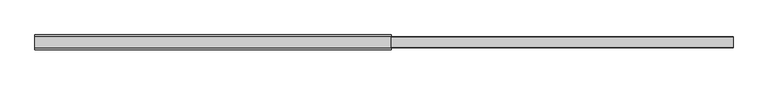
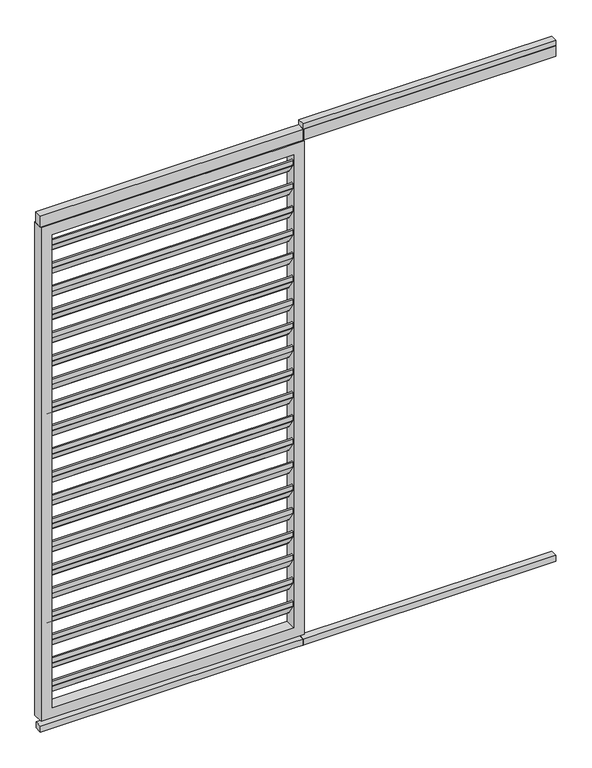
"""IFC4 building model written with IfcOpenShell, lengths in millimetres: proxy geometry, Renson_Algarve_Loggia_Paro_Aluminium : Renson_Algarve_Loggia_Paro_Aluminium."""

from ifc_helpers import new_model, si_unit, point, frame, frame_2d, origin, origin_with_axes, place, context, project, spatial, polyline, circle_curve, trimmed, segment, composite_curve, outline, extrude, source, transform, mapped, element, save


def generic_models_d46f8615(model_context):
    return source(origin(), model_context, "Body", "SweptSolid", [
        extrude(outline(composite_curve([segment(polyline([(-10.1515804, 1894.292689), (14.3324079, 1856.5906532), (14.3324079, 1837.3412281)]), True, "CONTINUOUS"), segment(trimmed(circle_curve(frame_2d((11.3324079, 1837.3412281)), 3.0), [point((14.3324079, 1837.3412281))], [point((8.8163962, 1835.707311))], False, "CARTESIAN"), True, "CONTINUOUS"), segment(polyline([(8.8163962, 1835.707311), (-15.1836038, 1872.6640702)]), True, "CONTINUOUS"), segment(trimmed(circle_curve(frame_2d((-12.6675921, 1874.2979873)), 3.0), [point((-15.1836038, 1872.6640702))], [point((-15.6675921, 1874.2979873))], False, "CARTESIAN"), True, "CONTINUOUS"), segment(polyline([(-15.6675921, 1874.2979873), (-15.6675921, 1892.6587719)]), True, "CONTINUOUS"), segment(trimmed(circle_curve(frame_2d((-12.6675921, 1892.6587719)), 3.0), [point((-15.6675921, 1892.6587719))], [point((-10.1515804, 1894.292689))], False, "CARTESIAN"), True, "CONTINUOUS")], self_intersect=False)), frame((-442.5, 0.0, 0.0), z_axis=(1.0, 0.0, 0.0), x_axis=(0.0, 1.0, 0.0)), (0.0, 0.0, 1.0), 885.0),
        extrude(outline(composite_curve([segment(polyline([(-10.1515804, 1804.292689), (14.3324079, 1766.5906532), (14.3324079, 1747.3412281)]), True, "CONTINUOUS"), segment(trimmed(circle_curve(frame_2d((11.3324079, 1747.3412281)), 3.0), [point((14.3324079, 1747.3412281))], [point((8.8163962, 1745.707311))], False, "CARTESIAN"), True, "CONTINUOUS"), segment(polyline([(8.8163962, 1745.707311), (-15.1836038, 1782.6640702)]), True, "CONTINUOUS"), segment(trimmed(circle_curve(frame_2d((-12.6675921, 1784.2979873)), 3.0), [point((-15.1836038, 1782.6640702))], [point((-15.6675921, 1784.2979873))], False, "CARTESIAN"), True, "CONTINUOUS"), segment(polyline([(-15.6675921, 1784.2979873), (-15.6675921, 1802.6587719)]), True, "CONTINUOUS"), segment(trimmed(circle_curve(frame_2d((-12.6675921, 1802.6587719)), 3.0), [point((-15.6675921, 1802.6587719))], [point((-10.1515804, 1804.292689))], False, "CARTESIAN"), True, "CONTINUOUS")], self_intersect=False)), frame((-442.5, 0.0, 0.0), z_axis=(1.0, 0.0, 0.0), x_axis=(0.0, 1.0, 0.0)), (0.0, 0.0, 1.0), 885.0),
        extrude(outline(composite_curve([segment(polyline([(-10.1515804, 1714.292689), (14.3324079, 1676.5906532), (14.3324079, 1657.3412281)]), True, "CONTINUOUS"), segment(trimmed(circle_curve(frame_2d((11.3324079, 1657.3412281)), 3.0), [point((14.3324079, 1657.3412281))], [point((8.8163962, 1655.707311))], False, "CARTESIAN"), True, "CONTINUOUS"), segment(polyline([(8.8163962, 1655.707311), (-15.1836038, 1692.6640702)]), True, "CONTINUOUS"), segment(trimmed(circle_curve(frame_2d((-12.6675921, 1694.2979873)), 3.0), [point((-15.1836038, 1692.6640702))], [point((-15.6675921, 1694.2979873))], False, "CARTESIAN"), True, "CONTINUOUS"), segment(polyline([(-15.6675921, 1694.2979873), (-15.6675921, 1712.6587719)]), True, "CONTINUOUS"), segment(trimmed(circle_curve(frame_2d((-12.6675921, 1712.6587719)), 3.0), [point((-15.6675921, 1712.6587719))], [point((-10.1515804, 1714.292689))], False, "CARTESIAN"), True, "CONTINUOUS")], self_intersect=False)), frame((-442.5, 0.0, 0.0), z_axis=(1.0, 0.0, 0.0), x_axis=(0.0, 1.0, 0.0)), (0.0, 0.0, 1.0), 885.0),
        extrude(outline(composite_curve([segment(polyline([(-10.1515804, 1624.292689), (14.3324079, 1586.5906532), (14.3324079, 1567.3412281)]), True, "CONTINUOUS"), segment(trimmed(circle_curve(frame_2d((11.3324079, 1567.3412281)), 3.0), [point((14.3324079, 1567.3412281))], [point((8.8163962, 1565.707311))], False, "CARTESIAN"), True, "CONTINUOUS"), segment(polyline([(8.8163962, 1565.707311), (-15.1836038, 1602.6640702)]), True, "CONTINUOUS"), segment(trimmed(circle_curve(frame_2d((-12.6675921, 1604.2979873)), 3.0), [point((-15.1836038, 1602.6640702))], [point((-15.6675921, 1604.2979873))], False, "CARTESIAN"), True, "CONTINUOUS"), segment(polyline([(-15.6675921, 1604.2979873), (-15.6675921, 1622.6587719)]), True, "CONTINUOUS"), segment(trimmed(circle_curve(frame_2d((-12.6675921, 1622.6587719)), 3.0), [point((-15.6675921, 1622.6587719))], [point((-10.1515804, 1624.292689))], False, "CARTESIAN"), True, "CONTINUOUS")], self_intersect=False)), frame((-442.5, 0.0, 0.0), z_axis=(1.0, 0.0, 0.0), x_axis=(0.0, 1.0, 0.0)), (0.0, 0.0, 1.0), 885.0),
        extrude(outline(composite_curve([segment(polyline([(-10.1515804, 1534.292689), (14.3324079, 1496.5906532), (14.3324079, 1477.3412281)]), True, "CONTINUOUS"), segment(trimmed(circle_curve(frame_2d((11.3324079, 1477.3412281)), 3.0), [point((14.3324079, 1477.3412281))], [point((8.8163962, 1475.707311))], False, "CARTESIAN"), True, "CONTINUOUS"), segment(polyline([(8.8163962, 1475.707311), (-15.1836038, 1512.6640702)]), True, "CONTINUOUS"), segment(trimmed(circle_curve(frame_2d((-12.6675921, 1514.2979873)), 3.0), [point((-15.1836038, 1512.6640702))], [point((-15.6675921, 1514.2979873))], False, "CARTESIAN"), True, "CONTINUOUS"), segment(polyline([(-15.6675921, 1514.2979873), (-15.6675921, 1532.6587719)]), True, "CONTINUOUS"), segment(trimmed(circle_curve(frame_2d((-12.6675921, 1532.6587719)), 3.0), [point((-15.6675921, 1532.6587719))], [point((-10.1515804, 1534.292689))], False, "CARTESIAN"), True, "CONTINUOUS")], self_intersect=False)), frame((-442.5, 0.0, 0.0), z_axis=(1.0, 0.0, 0.0), x_axis=(0.0, 1.0, 0.0)), (0.0, 0.0, 1.0), 885.0),
        extrude(outline(composite_curve([segment(polyline([(-10.1515804, 1444.292689), (14.3324079, 1406.5906532), (14.3324079, 1387.3412281)]), True, "CONTINUOUS"), segment(trimmed(circle_curve(frame_2d((11.3324079, 1387.3412281)), 3.0), [point((14.3324079, 1387.3412281))], [point((8.8163962, 1385.707311))], False, "CARTESIAN"), True, "CONTINUOUS"), segment(polyline([(8.8163962, 1385.707311), (-15.1836038, 1422.6640702)]), True, "CONTINUOUS"), segment(trimmed(circle_curve(frame_2d((-12.6675921, 1424.2979873)), 3.0), [point((-15.1836038, 1422.6640702))], [point((-15.6675921, 1424.2979873))], False, "CARTESIAN"), True, "CONTINUOUS"), segment(polyline([(-15.6675921, 1424.2979873), (-15.6675921, 1442.6587719)]), True, "CONTINUOUS"), segment(trimmed(circle_curve(frame_2d((-12.6675921, 1442.6587719)), 3.0), [point((-15.6675921, 1442.6587719))], [point((-10.1515804, 1444.292689))], False, "CARTESIAN"), True, "CONTINUOUS")], self_intersect=False)), frame((-442.5, 0.0, 0.0), z_axis=(1.0, 0.0, 0.0), x_axis=(0.0, 1.0, 0.0)), (0.0, 0.0, 1.0), 885.0),
        extrude(outline(composite_curve([segment(polyline([(-10.1515804, 1354.292689), (14.3324079, 1316.5906532), (14.3324079, 1297.3412281)]), True, "CONTINUOUS"), segment(trimmed(circle_curve(frame_2d((11.3324079, 1297.3412281)), 3.0), [point((14.3324079, 1297.3412281))], [point((8.8163962, 1295.707311))], False, "CARTESIAN"), True, "CONTINUOUS"), segment(polyline([(8.8163962, 1295.707311), (-15.1836038, 1332.6640702)]), True, "CONTINUOUS"), segment(trimmed(circle_curve(frame_2d((-12.6675921, 1334.2979873)), 3.0), [point((-15.1836038, 1332.6640702))], [point((-15.6675921, 1334.2979873))], False, "CARTESIAN"), True, "CONTINUOUS"), segment(polyline([(-15.6675921, 1334.2979873), (-15.6675921, 1352.6587719)]), True, "CONTINUOUS"), segment(trimmed(circle_curve(frame_2d((-12.6675921, 1352.6587719)), 3.0), [point((-15.6675921, 1352.6587719))], [point((-10.1515804, 1354.292689))], False, "CARTESIAN"), True, "CONTINUOUS")], self_intersect=False)), frame((-442.5, 0.0, 0.0), z_axis=(1.0, 0.0, 0.0), x_axis=(0.0, 1.0, 0.0)), (0.0, 0.0, 1.0), 885.0),
        extrude(outline(composite_curve([segment(polyline([(-10.1515804, 1264.292689), (14.3324079, 1226.5906532), (14.3324079, 1207.3412281)]), True, "CONTINUOUS"), segment(trimmed(circle_curve(frame_2d((11.3324079, 1207.3412281)), 3.0), [point((14.3324079, 1207.3412281))], [point((8.8163962, 1205.707311))], False, "CARTESIAN"), True, "CONTINUOUS"), segment(polyline([(8.8163962, 1205.707311), (-15.1836038, 1242.6640702)]), True, "CONTINUOUS"), segment(trimmed(circle_curve(frame_2d((-12.6675921, 1244.2979873)), 3.0), [point((-15.1836038, 1242.6640702))], [point((-15.6675921, 1244.2979873))], False, "CARTESIAN"), True, "CONTINUOUS"), segment(polyline([(-15.6675921, 1244.2979873), (-15.6675921, 1262.6587719)]), True, "CONTINUOUS"), segment(trimmed(circle_curve(frame_2d((-12.6675921, 1262.6587719)), 3.0), [point((-15.6675921, 1262.6587719))], [point((-10.1515804, 1264.292689))], False, "CARTESIAN"), True, "CONTINUOUS")], self_intersect=False)), frame((-442.5, 0.0, 0.0), z_axis=(1.0, 0.0, 0.0), x_axis=(0.0, 1.0, 0.0)), (0.0, 0.0, 1.0), 885.0),
        extrude(outline(composite_curve([segment(polyline([(-10.1515804, 1174.292689), (14.3324079, 1136.5906532), (14.3324079, 1117.3412281)]), True, "CONTINUOUS"), segment(trimmed(circle_curve(frame_2d((11.3324079, 1117.3412281)), 3.0), [point((14.3324079, 1117.3412281))], [point((8.8163962, 1115.707311))], False, "CARTESIAN"), True, "CONTINUOUS"), segment(polyline([(8.8163962, 1115.707311), (-15.1836038, 1152.6640702)]), True, "CONTINUOUS"), segment(trimmed(circle_curve(frame_2d((-12.6675921, 1154.2979873)), 3.0), [point((-15.1836038, 1152.6640702))], [point((-15.6675921, 1154.2979873))], False, "CARTESIAN"), True, "CONTINUOUS"), segment(polyline([(-15.6675921, 1154.2979873), (-15.6675921, 1172.6587719)]), True, "CONTINUOUS"), segment(trimmed(circle_curve(frame_2d((-12.6675921, 1172.6587719)), 3.0), [point((-15.6675921, 1172.6587719))], [point((-10.1515804, 1174.292689))], False, "CARTESIAN"), True, "CONTINUOUS")], self_intersect=False)), frame((-442.5, 0.0, 0.0), z_axis=(1.0, 0.0, 0.0), x_axis=(0.0, 1.0, 0.0)), (0.0, 0.0, 1.0), 885.0),
        extrude(outline(composite_curve([segment(polyline([(-10.1515804, 1084.292689), (14.3324079, 1046.5906532), (14.3324079, 1027.3412281)]), True, "CONTINUOUS"), segment(trimmed(circle_curve(frame_2d((11.3324079, 1027.3412281)), 3.0), [point((14.3324079, 1027.3412281))], [point((8.8163962, 1025.707311))], False, "CARTESIAN"), True, "CONTINUOUS"), segment(polyline([(8.8163962, 1025.707311), (-15.1836038, 1062.6640702)]), True, "CONTINUOUS"), segment(trimmed(circle_curve(frame_2d((-12.6675921, 1064.2979873)), 3.0), [point((-15.1836038, 1062.6640702))], [point((-15.6675921, 1064.2979873))], False, "CARTESIAN"), True, "CONTINUOUS"), segment(polyline([(-15.6675921, 1064.2979873), (-15.6675921, 1082.6587719)]), True, "CONTINUOUS"), segment(trimmed(circle_curve(frame_2d((-12.6675921, 1082.6587719)), 3.0), [point((-15.6675921, 1082.6587719))], [point((-10.1515804, 1084.292689))], False, "CARTESIAN"), True, "CONTINUOUS")], self_intersect=False)), frame((-442.5, 0.0, 0.0), z_axis=(1.0, 0.0, 0.0), x_axis=(0.0, 1.0, 0.0)), (0.0, 0.0, 1.0), 885.0),
        extrude(outline(composite_curve([segment(polyline([(-10.1515804, 994.292689), (14.3324079, 956.5906532), (14.3324079, 937.3412281)]), True, "CONTINUOUS"), segment(trimmed(circle_curve(frame_2d((11.3324079, 937.3412281)), 3.0), [point((14.3324079, 937.3412281))], [point((8.8163962, 935.707311))], False, "CARTESIAN"), True, "CONTINUOUS"), segment(polyline([(8.8163962, 935.707311), (-15.1836038, 972.6640702)]), True, "CONTINUOUS"), segment(trimmed(circle_curve(frame_2d((-12.6675921, 974.2979873)), 3.0), [point((-15.1836038, 972.6640702))], [point((-15.6675921, 974.2979873))], False, "CARTESIAN"), True, "CONTINUOUS"), segment(polyline([(-15.6675921, 974.2979873), (-15.6675921, 992.6587719)]), True, "CONTINUOUS"), segment(trimmed(circle_curve(frame_2d((-12.6675921, 992.6587719)), 3.0), [point((-15.6675921, 992.6587719))], [point((-10.1515804, 994.292689))], False, "CARTESIAN"), True, "CONTINUOUS")], self_intersect=False)), frame((-442.5, 0.0, 0.0), z_axis=(1.0, 0.0, 0.0), x_axis=(0.0, 1.0, 0.0)), (0.0, 0.0, 1.0), 885.0),
        extrude(outline(composite_curve([segment(polyline([(-10.1515804, 904.292689), (14.3324079, 866.5906532), (14.3324079, 847.3412281)]), True, "CONTINUOUS"), segment(trimmed(circle_curve(frame_2d((11.3324079, 847.3412281)), 3.0), [point((14.3324079, 847.3412281))], [point((8.8163962, 845.707311))], False, "CARTESIAN"), True, "CONTINUOUS"), segment(polyline([(8.8163962, 845.707311), (-15.1836038, 882.6640702)]), True, "CONTINUOUS"), segment(trimmed(circle_curve(frame_2d((-12.6675921, 884.2979873)), 3.0), [point((-15.1836038, 882.6640702))], [point((-15.6675921, 884.2979873))], False, "CARTESIAN"), True, "CONTINUOUS"), segment(polyline([(-15.6675921, 884.2979873), (-15.6675921, 902.6587719)]), True, "CONTINUOUS"), segment(trimmed(circle_curve(frame_2d((-12.6675921, 902.6587719)), 3.0), [point((-15.6675921, 902.6587719))], [point((-10.1515804, 904.292689))], False, "CARTESIAN"), True, "CONTINUOUS")], self_intersect=False)), frame((-442.5, 0.0, 0.0), z_axis=(1.0, 0.0, 0.0), x_axis=(0.0, 1.0, 0.0)), (0.0, 0.0, 1.0), 885.0),
        extrude(outline(composite_curve([segment(polyline([(-10.1515804, 814.292689), (14.3324079, 776.5906532), (14.3324079, 757.3412281)]), True, "CONTINUOUS"), segment(trimmed(circle_curve(frame_2d((11.3324079, 757.3412281)), 3.0), [point((14.3324079, 757.3412281))], [point((8.8163962, 755.707311))], False, "CARTESIAN"), True, "CONTINUOUS"), segment(polyline([(8.8163962, 755.707311), (-15.1836038, 792.6640702)]), True, "CONTINUOUS"), segment(trimmed(circle_curve(frame_2d((-12.6675921, 794.2979873)), 3.0), [point((-15.1836038, 792.6640702))], [point((-15.6675921, 794.2979873))], False, "CARTESIAN"), True, "CONTINUOUS"), segment(polyline([(-15.6675921, 794.2979873), (-15.6675921, 812.6587719)]), True, "CONTINUOUS"), segment(trimmed(circle_curve(frame_2d((-12.6675921, 812.6587719)), 3.0), [point((-15.6675921, 812.6587719))], [point((-10.1515804, 814.292689))], False, "CARTESIAN"), True, "CONTINUOUS")], self_intersect=False)), frame((-442.5, 0.0, 0.0), z_axis=(1.0, 0.0, 0.0), x_axis=(0.0, 1.0, 0.0)), (0.0, 0.0, 1.0), 885.0),
        extrude(outline(composite_curve([segment(polyline([(-10.1515804, 724.292689), (14.3324079, 686.5906532), (14.3324079, 667.3412281)]), True, "CONTINUOUS"), segment(trimmed(circle_curve(frame_2d((11.3324079, 667.3412281)), 3.0), [point((14.3324079, 667.3412281))], [point((8.8163962, 665.707311))], False, "CARTESIAN"), True, "CONTINUOUS"), segment(polyline([(8.8163962, 665.707311), (-15.1836038, 702.6640702)]), True, "CONTINUOUS"), segment(trimmed(circle_curve(frame_2d((-12.6675921, 704.2979873)), 3.0), [point((-15.1836038, 702.6640702))], [point((-15.6675921, 704.2979873))], False, "CARTESIAN"), True, "CONTINUOUS"), segment(polyline([(-15.6675921, 704.2979873), (-15.6675921, 722.6587719)]), True, "CONTINUOUS"), segment(trimmed(circle_curve(frame_2d((-12.6675921, 722.6587719)), 3.0), [point((-15.6675921, 722.6587719))], [point((-10.1515804, 724.292689))], False, "CARTESIAN"), True, "CONTINUOUS")], self_intersect=False)), frame((-442.5, 0.0, 0.0), z_axis=(1.0, 0.0, 0.0), x_axis=(0.0, 1.0, 0.0)), (0.0, 0.0, 1.0), 885.0),
        extrude(outline(composite_curve([segment(polyline([(-10.1515804, 634.292689), (14.3324079, 596.5906532), (14.3324079, 577.3412281)]), True, "CONTINUOUS"), segment(trimmed(circle_curve(frame_2d((11.3324079, 577.3412281)), 3.0), [point((14.3324079, 577.3412281))], [point((8.8163962, 575.707311))], False, "CARTESIAN"), True, "CONTINUOUS"), segment(polyline([(8.8163962, 575.707311), (-15.1836038, 612.6640702)]), True, "CONTINUOUS"), segment(trimmed(circle_curve(frame_2d((-12.6675921, 614.2979873)), 3.0), [point((-15.1836038, 612.6640702))], [point((-15.6675921, 614.2979873))], False, "CARTESIAN"), True, "CONTINUOUS"), segment(polyline([(-15.6675921, 614.2979873), (-15.6675921, 632.6587719)]), True, "CONTINUOUS"), segment(trimmed(circle_curve(frame_2d((-12.6675921, 632.6587719)), 3.0), [point((-15.6675921, 632.6587719))], [point((-10.1515804, 634.292689))], False, "CARTESIAN"), True, "CONTINUOUS")], self_intersect=False)), frame((-442.5, 0.0, 0.0), z_axis=(1.0, 0.0, 0.0), x_axis=(0.0, 1.0, 0.0)), (0.0, 0.0, 1.0), 885.0),
        extrude(outline(composite_curve([segment(polyline([(-10.1515804, 544.292689), (14.3324079, 506.5906532), (14.3324079, 487.3412281)]), True, "CONTINUOUS"), segment(trimmed(circle_curve(frame_2d((11.3324079, 487.3412281)), 3.0), [point((14.3324079, 487.3412281))], [point((8.8163962, 485.707311))], False, "CARTESIAN"), True, "CONTINUOUS"), segment(polyline([(8.8163962, 485.707311), (-15.1836038, 522.6640702)]), True, "CONTINUOUS"), segment(trimmed(circle_curve(frame_2d((-12.6675921, 524.2979873)), 3.0), [point((-15.1836038, 522.6640702))], [point((-15.6675921, 524.2979873))], False, "CARTESIAN"), True, "CONTINUOUS"), segment(polyline([(-15.6675921, 524.2979873), (-15.6675921, 542.6587719)]), True, "CONTINUOUS"), segment(trimmed(circle_curve(frame_2d((-12.6675921, 542.6587719)), 3.0), [point((-15.6675921, 542.6587719))], [point((-10.1515804, 544.292689))], False, "CARTESIAN"), True, "CONTINUOUS")], self_intersect=False)), frame((-442.5, 0.0, 0.0), z_axis=(1.0, 0.0, 0.0), x_axis=(0.0, 1.0, 0.0)), (0.0, 0.0, 1.0), 885.0),
        extrude(outline(composite_curve([segment(polyline([(-10.1515804, 454.292689), (14.3324079, 416.5906532), (14.3324079, 397.3412281)]), True, "CONTINUOUS"), segment(trimmed(circle_curve(frame_2d((11.3324079, 397.3412281)), 3.0), [point((14.3324079, 397.3412281))], [point((8.8163962, 395.707311))], False, "CARTESIAN"), True, "CONTINUOUS"), segment(polyline([(8.8163962, 395.707311), (-15.1836038, 432.6640702)]), True, "CONTINUOUS"), segment(trimmed(circle_curve(frame_2d((-12.6675921, 434.2979873)), 3.0), [point((-15.1836038, 432.6640702))], [point((-15.6675921, 434.2979873))], False, "CARTESIAN"), True, "CONTINUOUS"), segment(polyline([(-15.6675921, 434.2979873), (-15.6675921, 452.6587719)]), True, "CONTINUOUS"), segment(trimmed(circle_curve(frame_2d((-12.6675921, 452.6587719)), 3.0), [point((-15.6675921, 452.6587719))], [point((-10.1515804, 454.292689))], False, "CARTESIAN"), True, "CONTINUOUS")], self_intersect=False)), frame((-442.5, 0.0, 0.0), z_axis=(1.0, 0.0, 0.0), x_axis=(0.0, 1.0, 0.0)), (0.0, 0.0, 1.0), 885.0),
        extrude(outline(composite_curve([segment(polyline([(-10.1515804, 364.292689), (14.3324079, 326.5906532), (14.3324079, 307.3412281)]), True, "CONTINUOUS"), segment(trimmed(circle_curve(frame_2d((11.3324079, 307.3412281)), 3.0), [point((14.3324079, 307.3412281))], [point((8.8163962, 305.707311))], False, "CARTESIAN"), True, "CONTINUOUS"), segment(polyline([(8.8163962, 305.707311), (-15.1836038, 342.6640702)]), True, "CONTINUOUS"), segment(trimmed(circle_curve(frame_2d((-12.6675921, 344.2979873)), 3.0), [point((-15.1836038, 342.6640702))], [point((-15.6675921, 344.2979873))], False, "CARTESIAN"), True, "CONTINUOUS"), segment(polyline([(-15.6675921, 344.2979873), (-15.6675921, 362.6587719)]), True, "CONTINUOUS"), segment(trimmed(circle_curve(frame_2d((-12.6675921, 362.6587719)), 3.0), [point((-15.6675921, 362.6587719))], [point((-10.1515804, 364.292689))], False, "CARTESIAN"), True, "CONTINUOUS")], self_intersect=False)), frame((-442.5, 0.0, 0.0), z_axis=(1.0, 0.0, 0.0), x_axis=(0.0, 1.0, 0.0)), (0.0, 0.0, 1.0), 885.0),
        extrude(outline(composite_curve([segment(polyline([(-10.1515804, 274.292689), (14.3324079, 236.5906532), (14.3324079, 217.3412281)]), True, "CONTINUOUS"), segment(trimmed(circle_curve(frame_2d((11.3324079, 217.3412281)), 3.0), [point((14.3324079, 217.3412281))], [point((8.8163962, 215.707311))], False, "CARTESIAN"), True, "CONTINUOUS"), segment(polyline([(8.8163962, 215.707311), (-15.1836038, 252.6640702)]), True, "CONTINUOUS"), segment(trimmed(circle_curve(frame_2d((-12.6675921, 254.2979873)), 3.0), [point((-15.1836038, 252.6640702))], [point((-15.6675921, 254.2979873))], False, "CARTESIAN"), True, "CONTINUOUS"), segment(polyline([(-15.6675921, 254.2979873), (-15.6675921, 272.6587719)]), True, "CONTINUOUS"), segment(trimmed(circle_curve(frame_2d((-12.6675921, 272.6587719)), 3.0), [point((-15.6675921, 272.6587719))], [point((-10.1515804, 274.292689))], False, "CARTESIAN"), True, "CONTINUOUS")], self_intersect=False)), frame((-442.5, 0.0, 0.0), z_axis=(1.0, 0.0, 0.0), x_axis=(0.0, 1.0, 0.0)), (0.0, 0.0, 1.0), 885.0),
        extrude(outline(composite_curve([segment(polyline([(-10.1515804, 184.292689), (14.3324079, 146.5906532), (14.3324079, 127.3412281)]), True, "CONTINUOUS"), segment(trimmed(circle_curve(frame_2d((11.3324079, 127.3412281)), 3.0), [point((14.3324079, 127.3412281))], [point((8.8163962, 125.707311))], False, "CARTESIAN"), True, "CONTINUOUS"), segment(polyline([(8.8163962, 125.707311), (-15.1836038, 162.6640702)]), True, "CONTINUOUS"), segment(trimmed(circle_curve(frame_2d((-12.6675921, 164.2979873)), 3.0), [point((-15.1836038, 162.6640702))], [point((-15.6675921, 164.2979873))], False, "CARTESIAN"), True, "CONTINUOUS"), segment(polyline([(-15.6675921, 164.2979873), (-15.6675921, 182.6587719)]), True, "CONTINUOUS"), segment(trimmed(circle_curve(frame_2d((-12.6675921, 182.6587719)), 3.0), [point((-15.6675921, 182.6587719))], [point((-10.1515804, 184.292689))], False, "CARTESIAN"), True, "CONTINUOUS")], self_intersect=False)), frame((-442.5, 0.0, 0.0), z_axis=(1.0, 0.0, 0.0), x_axis=(0.0, 1.0, 0.0)), (0.0, 0.0, 1.0), 885.0),
        extrude(outline(polyline([(1407.5, 13.0), (1407.5, -14.0), (481.5, -14.0), (481.5, 13.0), (1407.5, 13.0)])), frame((0.0, 0.0, 2000.0), z_axis=(0.0, 0.0, 1.0), x_axis=(1.0, 0.0, 0.0)), (0.0, 0.0, 1.0), 20.0),
        extrude(outline(polyline([(482.5, -15.0), (481.5, -15.0), (481.5, 15.0), (482.5, 15.0), (482.5, -15.0)])), frame((0.0, 0.0, 1957.7138321), z_axis=(0.0, 0.0, 1.0), x_axis=(1.0, 0.0, 0.0)), (0.0, 0.0, 1.0), 42.2861679),
        extrude(outline(polyline([(1407.5, -15.0), (-482.5, -15.0), (-482.5, 15.0), (1407.5, 15.0), (1407.5, -15.0)])), frame((0.0, 0.0, 1957.7138321), z_axis=(0.0, 0.0, 1.0), x_axis=(1.0, 0.0, 0.0)), (0.0, 0.0, 1.0), 42.2861679),
        extrude(outline(polyline([(482.5, 13.0), (482.5, -14.0), (481.5, -14.0), (481.5, 13.0), (482.5, 13.0)])), origin_with_axes(), (0.0, 0.0, 1.0), 23.0),
        extrude(outline(polyline([(1407.5, 13.0), (1407.5, -14.0), (-482.5, -14.0), (-482.5, 13.0), (1407.5, 13.0)])), origin_with_axes(), (0.0, 0.0, 1.0), 23.0),
        extrude(outline(polyline([(1957.7138321, 482.5), (1957.7138321, -482.5), (45.0, -482.5), (45.0, 482.5), (1957.7138321, 482.5)]), holes=[polyline([(1917.7138321, -442.5), (1917.7138321, 442.5), (85.0, 442.5), (85.0, -442.5), (1917.7138321, -442.5)])]), frame((0.0, -20.0, 0.0), z_axis=(0.0, 1.0, 0.0), x_axis=(0.0, 0.0, 1.0)), (0.0, 0.0, 1.0), 40.0),
    ])


if __name__ == "__main__":
    model = new_model("IFC4")
    model_context = context("Model", 3, world=origin())
    ifc_project = project(units=[si_unit("LENGTHUNIT", "METRE", prefix="MILLI")], contexts=[model_context])
    site = spatial("IfcSite", under=ifc_project)
    building = spatial("IfcBuilding", under=site)
    placement = place(None, origin())
    generic_models_shape = generic_models_d46f8615(model_context)
    element("IfcBuildingElementProxy", 1, Name="Renson_Algarve_Loggia_Paro_Aluminium : Renson_Algarve_Loggia_Paro_Aluminium", ObjectType="Renson_Algarve_Loggia_Paro_Aluminium : Renson_Algarve_Loggia_Paro_Aluminium", at=placement, inside=building, context=model_context, shape_type="MappedRepresentation", body=[
        mapped(generic_models_shape, transform((0.0, 0.0, 0.0), x_axis=(1.0, 0.0, 0.0), y_axis=(0.0, 1.0, 0.0), z_axis=(0.0, 0.0, 1.0))),
    ])
    save(model, "model.ifc")
